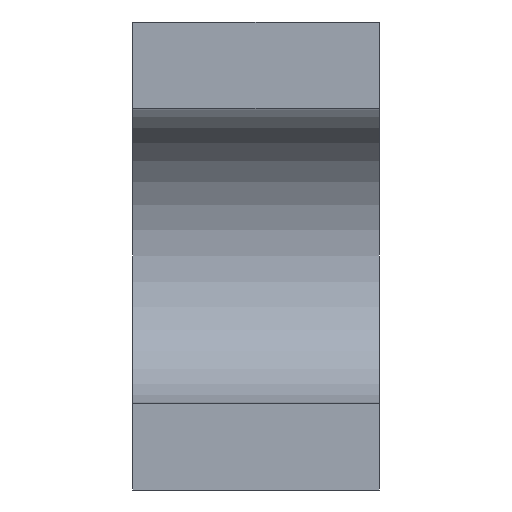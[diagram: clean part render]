
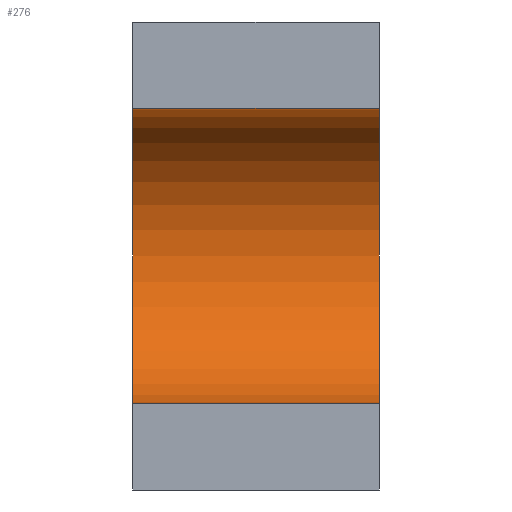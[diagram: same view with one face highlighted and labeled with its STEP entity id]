
A CAD part, front view. The second image highlights one B-rep face of the part: STEP entity #276.
In plain terms, the highlighted cylindrical face has radius 12 mm (diameter 24 mm), a partial arc.
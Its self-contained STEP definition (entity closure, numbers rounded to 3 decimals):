
#27=LINE('',#460,#51);
#28=LINE('',#463,#52);
#51=VECTOR('',#381,10.);
#52=VECTOR('',#384,10.);
#68=CYLINDRICAL_SURFACE('',#316,12.);
#84=FACE_OUTER_BOUND('',#104,.T.);
#104=EDGE_LOOP('',(#219,#220,#221,#222));
#123=CIRCLE('',#317,12.);
#124=CIRCLE('',#318,12.);
#141=VERTEX_POINT('',#456);
#142=VERTEX_POINT('',#457);
#143=VERTEX_POINT('',#459);
#144=VERTEX_POINT('',#461);
#171=EDGE_CURVE('',#141,#142,#123,.T.);
#172=EDGE_CURVE('',#141,#143,#27,.T.);
#173=EDGE_CURVE('',#143,#144,#124,.T.);
#174=EDGE_CURVE('',#142,#144,#28,.T.);
#219=ORIENTED_EDGE('',*,*,#171,.F.);
#220=ORIENTED_EDGE('',*,*,#172,.T.);
#221=ORIENTED_EDGE('',*,*,#173,.T.);
#222=ORIENTED_EDGE('',*,*,#174,.F.);
#276=ADVANCED_FACE('',(#84),#68,.F.);
#316=AXIS2_PLACEMENT_3D('',#455,#377,#378);
#317=AXIS2_PLACEMENT_3D('',#458,#379,#380);
#318=AXIS2_PLACEMENT_3D('',#462,#382,#383);
#377=DIRECTION('center_axis',(1.,0.,0.));
#378=DIRECTION('ref_axis',(0.,0.,-1.));
#379=DIRECTION('center_axis',(1.,0.,0.));
#380=DIRECTION('ref_axis',(0.,0.,-1.));
#381=DIRECTION('',(1.,0.,0.));
#382=DIRECTION('center_axis',(1.,0.,0.));
#383=DIRECTION('ref_axis',(0.,0.,-1.));
#384=DIRECTION('',(1.,0.,0.));
#455=CARTESIAN_POINT('Origin',(0.,0.,0.));
#456=CARTESIAN_POINT('',(0.,0.,-12.));
#457=CARTESIAN_POINT('',(0.,0.,12.));
#458=CARTESIAN_POINT('Origin',(0.,0.,0.));
#459=CARTESIAN_POINT('',(20.,0.,-12.));
#460=CARTESIAN_POINT('',(0.,0.,-12.));
#461=CARTESIAN_POINT('',(20.,0.,12.));
#462=CARTESIAN_POINT('Origin',(20.,0.,0.));
#463=CARTESIAN_POINT('',(0.,0.,12.));
